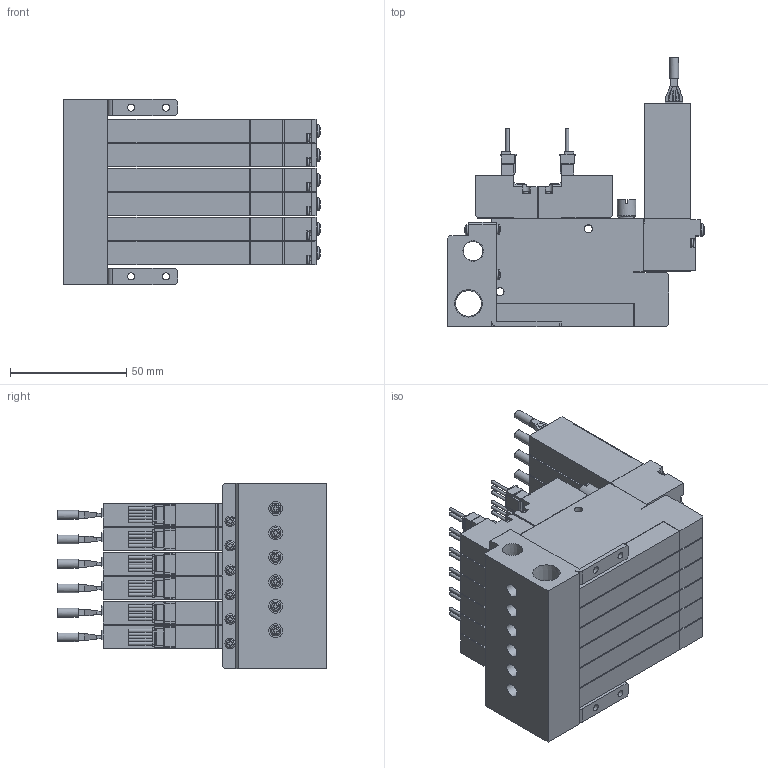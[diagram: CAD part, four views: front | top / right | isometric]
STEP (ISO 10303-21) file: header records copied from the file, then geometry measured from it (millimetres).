
FILE_DESCRIPTION(('STEP AP203'),'1');
FILE_NAME('V9C5WC606_3D.stp','2024-09-04T23:10:02',(' '),(' '),'Spatial InterOp 3D',' ',' ');
FILE_SCHEMA(('CONFIG_CONTROL_DESIGN'));
Length unit declared in the file: millimetre
Products named in the file (5): BSC1M※※V9C5WC606; Solenoid valve W; Pressure Sensor V9; Unit-C; BaseMC60R
Assembly tree (19 placements, depth 2):
  BSC1M※※V9C5WC606
    Solenoid valve W  x6
    Pressure Sensor V9  x6
    Unit-C  x6
    BaseMC60R
Bounding box: 110.35 x 115.8 x 79.5 mm (x, y, z)
Volume: 401183.8 mm3; surface area: 138461.8 mm2
Topology: 19 solids, 19 shells, 2601 faces, 7017 edges, 4626 vertices
Faces by surface type: plane 2009, cylinder 478, cone 46, sphere 34, torus 34
Full cylindrical faces by diameter (mm): 1.4 x30, 2.5 x12, 3 x28, 3.5 x48, 3.8 x6, 4 x6, 4.134 x12, 4.5 x16, 5.5 x12, 6 x6, 7 x12, 8 x6, 8.422 x1, 11.233 x1
Entity records: 21689 total; most frequent: CARTESIAN_POINT 4953, DIRECTION 3365, ORIENTED_EDGE 3226, EDGE_CURVE 1613, AXIS2_PLACEMENT_3D 1140, VERTEX_POINT 1138, LINE 1085, VECTOR 1085
